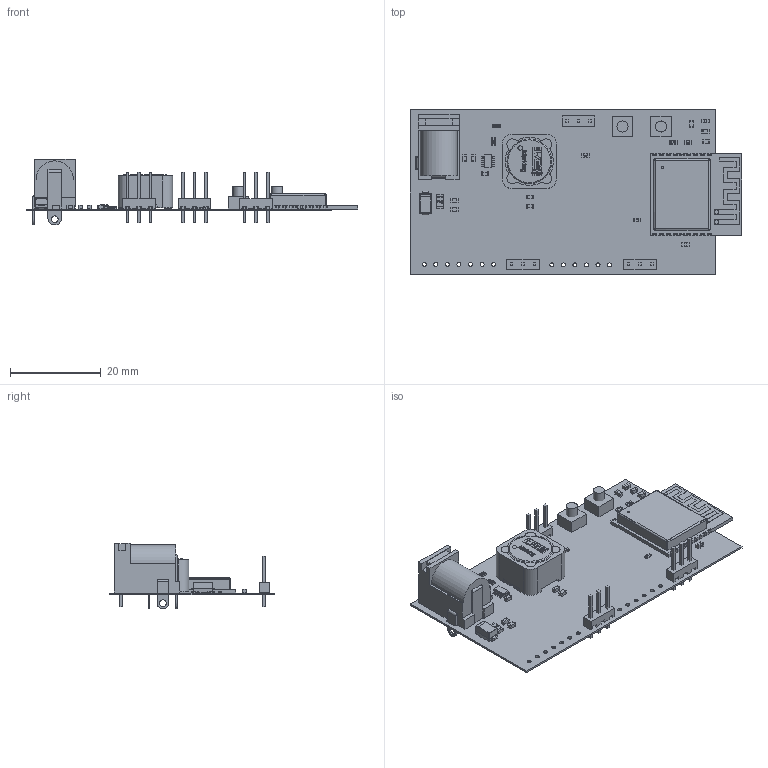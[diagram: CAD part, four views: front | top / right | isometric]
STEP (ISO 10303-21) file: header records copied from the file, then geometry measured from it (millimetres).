
FILE_DESCRIPTION(('Open CASCADE Model'),'2;1');
FILE_NAME('Open CASCADE Shape Model','2026-11-16T16:50:00',('Author'),( 'Open CASCADE'),'Open CASCADE STEP processor 6.8','Open CASCADE 6.8' ,'Unknown');
FILE_SCHEMA(('AUTOMOTIVE_DESIGN { 1 0 10303 214 1 1 1 1 }'));
Length unit declared in the file: millimetre
Products named in the file (58): PCB; Board; Open CASCADE STEP translator 6.8 1.1.1; R2; 0603_resistor; PS1; 6001524864; BODY-SOT; LEAD-SOT; L1; WE-PD_1280_m-base_744770xxx; Leadframe; Core; ShieldRing; Glue; TTP223; 5-146278-3--3DModel-STEP-1; TEMP200; REST; 6056881936; Extruded; 6056881696; Cylinder; BOOT; R200; C0603; R102; R101; R100; R1; J1; pj-002a; FC200; FB100; 742792602; Open CASCADE STEP translator 6.8 1.16.1.1; Open CASCADE STEP translator 6.8 1.16.1.2; Open CASCADE STEP translator 6.8 1.16.1.3; F1; FUSE_1206_3216_0.6MM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
Assembly tree (79 placements, depth 4):
  PCB
    Board
      Open CASCADE STEP translator 6.8 1.1.1
    R2
      0603_resistor
    PS1
      6001524864
        BODY-SOT
        LEAD-SOT  x6
    L1
      WE-PD_1280_m-base_744770xxx
        Leadframe
        Leadframe
        Core
        ShieldRing
        Glue
    TTP223
      5-146278-3--3DModel-STEP-1
    TEMP200
      5-146278-3--3DModel-STEP-1
    REST
      6056881936
        Extruded
      6056881696
        Cylinder
    BOOT
      6056881696
        Cylinder
      6056881936
        Extruded
    R200
      C0603
    R102
      C0603
    R101
      C0603
    R100
      C0603
    R1
      0603_resistor
    J1
      pj-002a
    FC200
      5-146278-3--3DModel-STEP-1
    FB100
      742792602
        Open CASCADE STEP translator 6.8 1.16.1.1
        Open CASCADE STEP translator 6.8 1.16.1.2
        Open CASCADE STEP translator 6.8 1.16.1.3
    F1
      FUSE_1206_3216_0.6MM
    ESP100
      6058077792
    D1
      SMA
    C200
      CircuitWorks-CAPACITOR_0603
    C102
      0603_cap
    C101
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Bounding box: 72.86 x 36.2 x 14.5 mm (x, y, z)
Volume: 3297.9 mm3; surface area: 9875 mm2
Topology: 82 solids, 82 shells, 2463 faces, 6133 edges, 3732 vertices
Faces by surface type: plane 1448, cylinder 605, sphere 206, bspline 168, extrusion 31, cone 4, torus 1
Full cylindrical faces by diameter (mm): 0.3 x12, 0.5 x2, 0.888 x22, 1 x3, 2.44 x2, 5.8 x1, 9.85 x3
Entity records: 55189 total; most frequent: CARTESIAN_POINT 12334, ORIENTED_EDGE 7746, DIRECTION 7234, EDGE_CURVE 3873, VECTOR 2882, LINE 2851, VERTEX_POINT 2524, AXIS2_PLACEMENT_3D 2176
